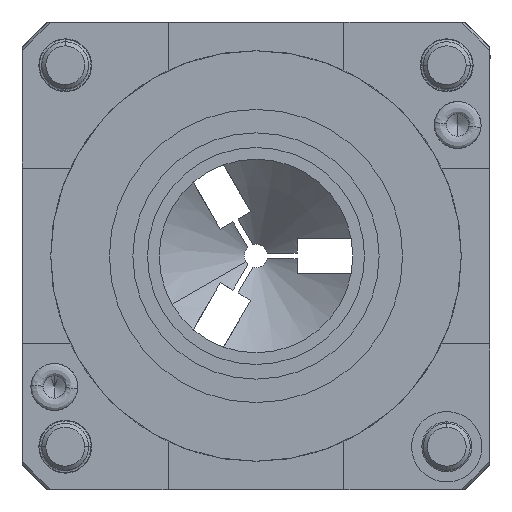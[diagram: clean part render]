
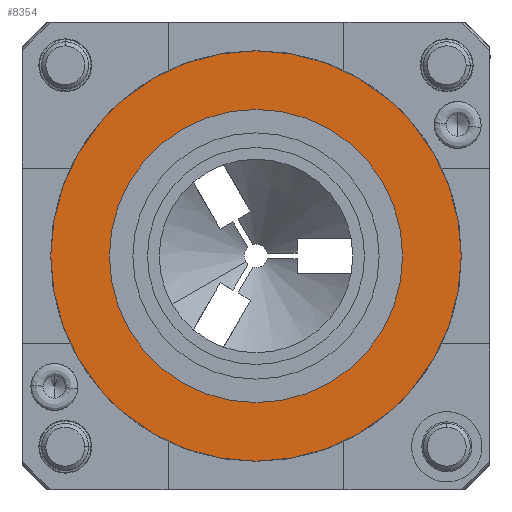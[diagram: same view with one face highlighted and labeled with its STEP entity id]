
A CAD part, front view. The second image highlights one B-rep face of the part: STEP entity #8354.
In plain terms, the highlighted planar face has unit normal (0, -1, 0).
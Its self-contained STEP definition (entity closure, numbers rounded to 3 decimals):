
#1330 = AXIS2_PLACEMENT_3D ( 'NONE', #17441, #16478, #17543 ) ;
#1353 = AXIS2_PLACEMENT_3D ( 'NONE', #4241, #4234, #4233 ) ;
#1367 = AXIS2_PLACEMENT_3D ( 'NONE', #4814, #4690, #4689 ) ;
#1396 = EDGE_CURVE ( 'NONE', #3099, #10449, #12737, .T. ) ;
#1464 = EDGE_CURVE ( 'NONE', #10478, #13659, #13502, .T. ) ;
#1579 = AXIS2_PLACEMENT_3D ( 'NONE', #1680, #2768, #2886 ) ;
#1606 = AXIS2_PLACEMENT_3D ( 'NONE', #1889, #1886, #1885 ) ;
#1680 = CARTESIAN_POINT ( 'NONE',  ( 0., -5., 0. ) ) ;
#1885 = DIRECTION ( 'NONE',  ( 0., 0., -1. ) ) ;
#1886 = DIRECTION ( 'NONE',  ( 0., 1., 0. ) ) ;
#1889 = CARTESIAN_POINT ( 'NONE',  ( 0., -5., 0. ) ) ;
#2768 = DIRECTION ( 'NONE',  ( 0., -1., 0. ) ) ;
#2886 = DIRECTION ( 'NONE',  ( 0., 0., -1. ) ) ;
#3099 = VERTEX_POINT ( 'NONE', #14686 ) ;
#3502 = EDGE_CURVE ( 'NONE', #10449, #3099, #6201, .T. ) ;
#3634 = EDGE_CURVE ( 'NONE', #13659, #10478, #5928, .T. ) ;
#4233 = DIRECTION ( 'NONE',  ( 0., 0., -1. ) ) ;
#4234 = DIRECTION ( 'NONE',  ( 0., -1., 0. ) ) ;
#4241 = CARTESIAN_POINT ( 'NONE',  ( 0., -5., 0. ) ) ;
#4689 = DIRECTION ( 'NONE',  ( 0., 0., -1. ) ) ;
#4690 = DIRECTION ( 'NONE',  ( 0., 1., 0. ) ) ;
#4814 = CARTESIAN_POINT ( 'NONE',  ( 0., -5., 0. ) ) ;
#5928 = CIRCLE ( 'NONE', #1353, 25. ) ;
#6201 = CIRCLE ( 'NONE', #1367, 35. ) ;
#8354 = ADVANCED_FACE ( 'NONE', ( #11060, #11467 ), #17361, .F. ) ;
#10449 = VERTEX_POINT ( 'NONE', #15578 ) ;
#10478 = VERTEX_POINT ( 'NONE', #15549 ) ;
#11060 = FACE_BOUND ( 'NONE', #16163, .T. ) ;
#11467 = FACE_OUTER_BOUND ( 'NONE', #16018, .T. ) ;
#12559 = ORIENTED_EDGE ( 'NONE', *, *, #3502, .F. ) ;
#12672 = ORIENTED_EDGE ( 'NONE', *, *, #1464, .F. ) ;
#12737 = CIRCLE ( 'NONE', #1606, 35. ) ;
#13158 = ORIENTED_EDGE ( 'NONE', *, *, #3634, .F. ) ;
#13316 = ORIENTED_EDGE ( 'NONE', *, *, #1396, .F. ) ;
#13502 = CIRCLE ( 'NONE', #1579, 25. ) ;
#13659 = VERTEX_POINT ( 'NONE', #15433 ) ;
#14686 = CARTESIAN_POINT ( 'NONE',  ( 0., -5., 35. ) ) ;
#15433 = CARTESIAN_POINT ( 'NONE',  ( 0., -5., 25. ) ) ;
#15549 = CARTESIAN_POINT ( 'NONE',  ( 0., -5., -25. ) ) ;
#15578 = CARTESIAN_POINT ( 'NONE',  ( 0., -5., -35. ) ) ;
#16018 = EDGE_LOOP ( 'NONE', ( #12559, #13316 ) ) ;
#16163 = EDGE_LOOP ( 'NONE', ( #12672, #13158 ) ) ;
#16478 = DIRECTION ( 'NONE',  ( 0., 1., 0. ) ) ;
#17361 = PLANE ( 'NONE',  #1330 ) ;
#17441 = CARTESIAN_POINT ( 'NONE',  ( 0., -5., 0. ) ) ;
#17543 = DIRECTION ( 'NONE',  ( 0., 0., 1. ) ) ;
